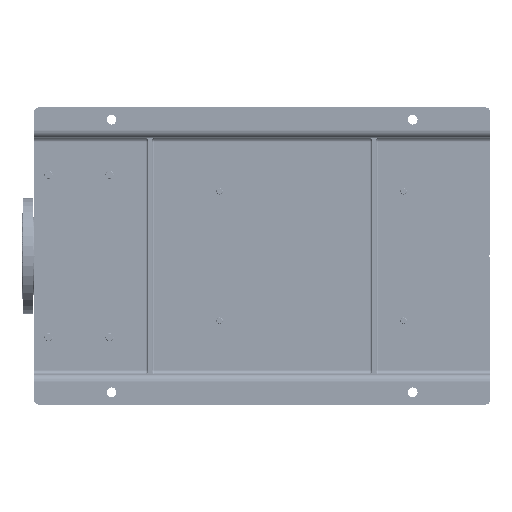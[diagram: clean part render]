
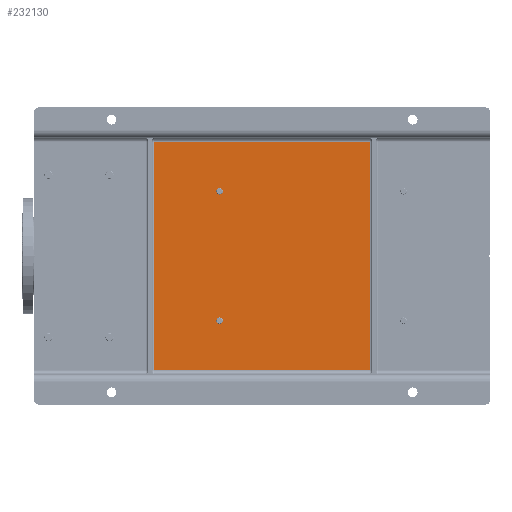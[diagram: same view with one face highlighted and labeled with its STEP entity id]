
A CAD part, front view. The second image highlights one B-rep face of the part: STEP entity #232130.
In plain terms, the highlighted planar face has unit normal (0, -1, 0).
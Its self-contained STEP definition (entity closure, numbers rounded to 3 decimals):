
#1153 = VECTOR ( 'NONE', #47708, 1000. ) ;
#2775 = CARTESIAN_POINT ( 'NONE',  ( 206., 90., -455.65 ) ) ;
#7423 = CARTESIAN_POINT ( 'NONE',  ( 645., 90., -295. ) ) ;
#8607 = LINE ( 'NONE', #161245, #215885 ) ;
#9904 = CIRCLE ( 'NONE', #161507, 8. ) ;
#15813 = DIRECTION ( 'NONE',  ( 0., 0., -1. ) ) ;
#18701 = CARTESIAN_POINT ( 'NONE',  ( 75., 90., -1120. ) ) ;
#20146 = FACE_BOUND ( 'NONE', #88163, .T. ) ;
#24997 = DIRECTION ( 'NONE',  ( 0., 1., 0. ) ) ;
#29510 = CARTESIAN_POINT ( 'NONE',  ( 524., 90., -463.65 ) ) ;
#33716 = CARTESIAN_POINT ( 'NONE',  ( 206., 90., -447.65 ) ) ;
#33732 = DIRECTION ( 'NONE',  ( 1., 0., 0. ) ) ;
#41487 = EDGE_CURVE ( 'NONE', #220829, #93778, #172895, .T. ) ;
#42321 = DIRECTION ( 'NONE',  ( 0., 0., 1. ) ) ;
#43845 = FACE_OUTER_BOUND ( 'NONE', #106850, .T. ) ;
#47150 = DIRECTION ( 'NONE',  ( 0., 1., 0. ) ) ;
#47571 = CARTESIAN_POINT ( 'NONE',  ( 524., 90., -447.65 ) ) ;
#47708 = DIRECTION ( 'NONE',  ( 0., 0., -1. ) ) ;
#60127 = LINE ( 'NONE', #153362, #78496 ) ;
#60928 = VECTOR ( 'NONE', #33732, 1000. ) ;
#71049 = EDGE_LOOP ( 'NONE', ( #221186, #100633 ) ) ;
#75510 = CARTESIAN_POINT ( 'NONE',  ( 645., 90., -825. ) ) ;
#77569 = ORIENTED_EDGE ( 'NONE', *, *, #94704, .T. ) ;
#78496 = VECTOR ( 'NONE', #108975, 1000. ) ;
#81004 = VERTEX_POINT ( 'NONE', #47571 ) ;
#82986 = EDGE_CURVE ( 'NONE', #125034, #81004, #256464, .T. ) ;
#88163 = EDGE_LOOP ( 'NONE', ( #213990, #130215 ) ) ;
#93778 = VERTEX_POINT ( 'NONE', #75510 ) ;
#94704 = EDGE_CURVE ( 'NONE', #216023, #220829, #164640, .T. ) ;
#95156 = DIRECTION ( 'NONE',  ( 0., 0., 1. ) ) ;
#100633 = ORIENTED_EDGE ( 'NONE', *, *, #82986, .T. ) ;
#106850 = EDGE_LOOP ( 'NONE', ( #77569, #210912, #109726, #165082 ) ) ;
#108975 = DIRECTION ( 'NONE',  ( 0., 0., 1. ) ) ;
#109726 = ORIENTED_EDGE ( 'NONE', *, *, #154055, .T. ) ;
#110536 = DIRECTION ( 'NONE',  ( 0., -1., 0. ) ) ;
#115319 = CARTESIAN_POINT ( 'NONE',  ( 85., 90., -295. ) ) ;
#120128 = EDGE_CURVE ( 'NONE', #202641, #216023, #8607, .T. ) ;
#120281 = EDGE_CURVE ( 'NONE', #204484, #203809, #239812, .T. ) ;
#125034 = VERTEX_POINT ( 'NONE', #29510 ) ;
#129915 = EDGE_CURVE ( 'NONE', #203809, #204484, #9904, .T. ) ;
#130215 = ORIENTED_EDGE ( 'NONE', *, *, #120281, .T. ) ;
#130925 = AXIS2_PLACEMENT_3D ( 'NONE', #2775, #24997, #279691 ) ;
#131282 = PLANE ( 'NONE',  #222341 ) ;
#136702 = DIRECTION ( 'NONE',  ( 0., 1., 0. ) ) ;
#138070 = CARTESIAN_POINT ( 'NONE',  ( 85., 90., -830. ) ) ;
#139478 = CARTESIAN_POINT ( 'NONE',  ( 85., 90., -825. ) ) ;
#140484 = DIRECTION ( 'NONE',  ( -1., 0., 0. ) ) ;
#153362 = CARTESIAN_POINT ( 'NONE',  ( 645., 90., -290. ) ) ;
#154055 = EDGE_CURVE ( 'NONE', #93778, #202641, #60127, .T. ) ;
#157030 = AXIS2_PLACEMENT_3D ( 'NONE', #268981, #200777, #42321 ) ;
#161245 = CARTESIAN_POINT ( 'NONE',  ( 75., 90., -295. ) ) ;
#161507 = AXIS2_PLACEMENT_3D ( 'NONE', #180480, #47150, #245727 ) ;
#164640 = LINE ( 'NONE', #138070, #1153 ) ;
#165082 = ORIENTED_EDGE ( 'NONE', *, *, #120128, .T. ) ;
#172895 = LINE ( 'NONE', #236661, #60928 ) ;
#176725 = AXIS2_PLACEMENT_3D ( 'NONE', #252240, #136702, #95156 ) ;
#180480 = CARTESIAN_POINT ( 'NONE',  ( 206., 90., -455.65 ) ) ;
#200777 = DIRECTION ( 'NONE',  ( 0., 1., 0. ) ) ;
#200824 = FACE_BOUND ( 'NONE', #71049, .T. ) ;
#202641 = VERTEX_POINT ( 'NONE', #7423 ) ;
#203809 = VERTEX_POINT ( 'NONE', #33716 ) ;
#204484 = VERTEX_POINT ( 'NONE', #284452 ) ;
#210912 = ORIENTED_EDGE ( 'NONE', *, *, #41487, .T. ) ;
#213990 = ORIENTED_EDGE ( 'NONE', *, *, #129915, .T. ) ;
#215885 = VECTOR ( 'NONE', #140484, 1000. ) ;
#216023 = VERTEX_POINT ( 'NONE', #115319 ) ;
#220829 = VERTEX_POINT ( 'NONE', #139478 ) ;
#221186 = ORIENTED_EDGE ( 'NONE', *, *, #224354, .T. ) ;
#222341 = AXIS2_PLACEMENT_3D ( 'NONE', #18701, #110536, #15813 ) ;
#224354 = EDGE_CURVE ( 'NONE', #81004, #125034, #261991, .T. ) ;
#232130 = ADVANCED_FACE ( 'NONE', ( #200824, #20146, #43845 ), #131282, .T. ) ;
#236661 = CARTESIAN_POINT ( 'NONE',  ( 75., 90., -825. ) ) ;
#239812 = CIRCLE ( 'NONE', #130925, 8. ) ;
#245727 = DIRECTION ( 'NONE',  ( 0., 0., -1. ) ) ;
#252240 = CARTESIAN_POINT ( 'NONE',  ( 524., 90., -455.65 ) ) ;
#256464 = CIRCLE ( 'NONE', #157030, 8. ) ;
#261991 = CIRCLE ( 'NONE', #176725, 8. ) ;
#268981 = CARTESIAN_POINT ( 'NONE',  ( 524., 90., -455.65 ) ) ;
#279691 = DIRECTION ( 'NONE',  ( 0., 0., -1. ) ) ;
#284452 = CARTESIAN_POINT ( 'NONE',  ( 206., 90., -463.65 ) ) ;
